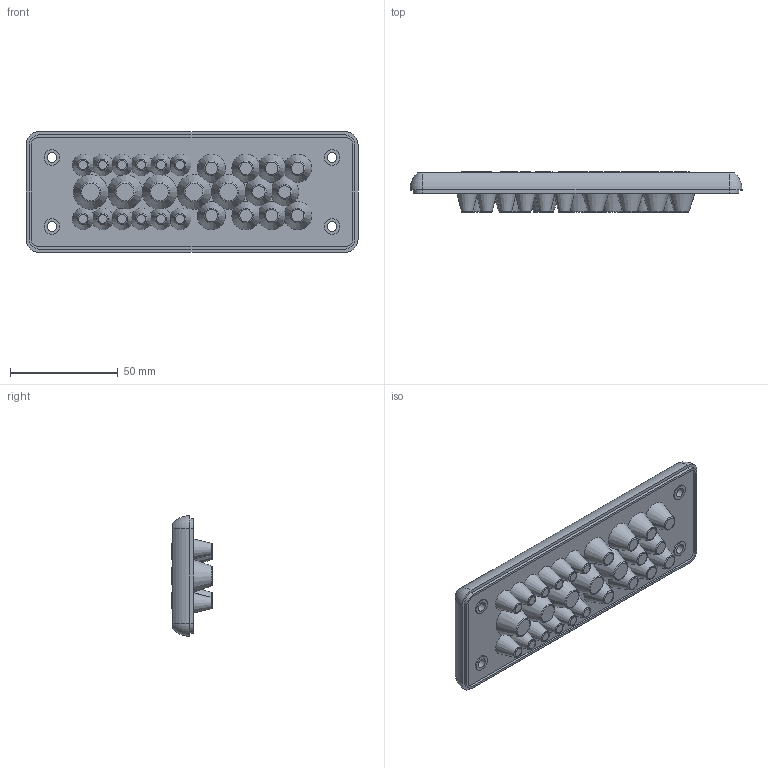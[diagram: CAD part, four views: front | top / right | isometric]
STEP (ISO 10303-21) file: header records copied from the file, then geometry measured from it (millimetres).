
FILE_DESCRIPTION(/* description */ ('STEP AP203'),/* implementation_level */ '2;1');
FILE_NAME(/* name */ '107480 MH-24 F 27-1',/* time_stamp */ '2024-10-07T12:29:27+02:00',/* author */ ('License CC BY-ND 4.0'),/* organization */ ('CADENAS'),/* preprocessor_version */ 'ST-DEVELOPER v19.3',/* originating_system */ 'PARTsolutions',/* authorisation */ ' ');
FILE_SCHEMA (('CONFIG_CONTROL_DESIGN'));
Length unit declared in the file: millimetre
Products named in the file (1): 107480 MH-24 F 27-1
Bounding box: 154 x 19 x 56 mm (x, y, z)
Volume: 88925.9 mm3; surface area: 26621.1 mm2
Topology: 1 solids, 1 shells, 209 faces, 498 edges, 314 vertices
Faces by surface type: plane 92, cone 58, torus 35, cylinder 24
Full cylindrical faces by diameter (mm): 4.5 x4, 7.2 x4
Entity records: 5382 total; most frequent: CARTESIAN_POINT 1073, DIRECTION 996, ORIENTED_EDGE 700, AXIS2_PLACEMENT_3D 472, EDGE_CURVE 350, EDGE_LOOP 337, FACE_BOUND 337, VERTEX_POINT 263
